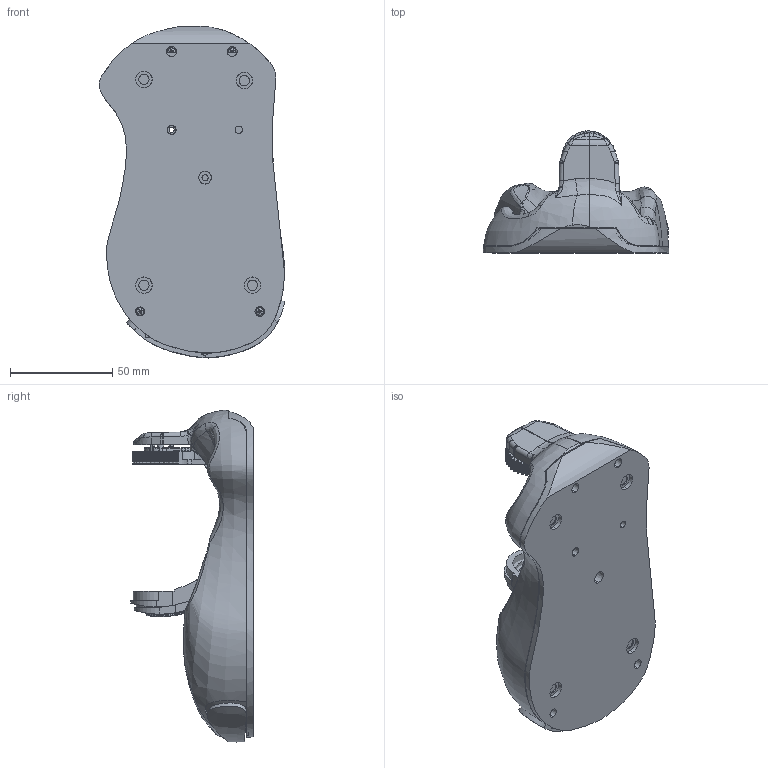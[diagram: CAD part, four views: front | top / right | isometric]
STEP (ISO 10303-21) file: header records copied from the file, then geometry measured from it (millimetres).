
FILE_DESCRIPTION (( 'STEP AP203' ), '1' );
FILE_NAME ('Left_Foot_jambe droite_leger_Default_sldprt.STEP', '2024-06-17T07:20:35', ( '' ), ( '' ), 'SwSTEP 2.0', 'SolidWorks 2023', '' );
FILE_SCHEMA (( 'CONFIG_CONTROL_DESIGN' ));
Products named in the file (1): Left_Foot_jambe droite_leger_Default_sldprt
Bounding box: 90.59 x 59.59 x 162.11 mm (x, y, z)
Volume: 131849.1 mm3; surface area: 142309.7 mm2
Topology: 14 solids, 14 shells, 4089 faces, 11631 edges, 7580 vertices
Faces by surface type: plane 2353, bspline 932, cylinder 507, cone 287, sphere 10
Entity records: 420145 total; most frequent: CARTESIAN_POINT 324258, ORIENTED_EDGE 23140, DIRECTION 15163, EDGE_CURVE 11570, VERTEX_POINT 7580, VECTOR 6631, LINE 6631, AXIS2_PLACEMENT_3D 4266
